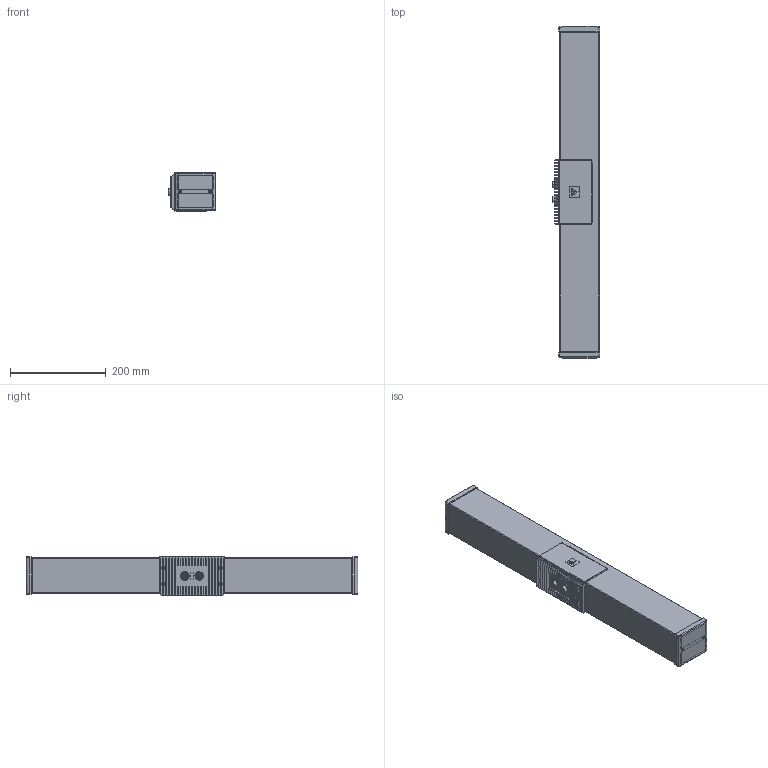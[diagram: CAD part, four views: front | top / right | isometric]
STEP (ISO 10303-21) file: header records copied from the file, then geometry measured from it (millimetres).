
FILE_DESCRIPTION (( 'STEP AP214' ), '1' );
FILE_NAME ('G52000.STEP', '2024-08-23T10:11:16', ( '' ), ( '' ), 'SwSTEP 2.0', 'SolidWorks 2023', '' );
FILE_SCHEMA (( 'AUTOMOTIVE_DESIGN' ));
Length unit declared in the file: millimetre
Products named in the file (21): M12-B3-Sx-M12X1pin; G52000; 防护镜片-40-45; logo; RVC-G-C-01-碳纤维管680-V3.0; RVC-G-C-17-激光镜片压板-V3.0; RVC-G-C-19-端盖内锁座-V3.0; 天传奇小尺寸振镜; 内六角沉头螺钉[M3×6]_M3×8×6; RVC-P-C-10-相机调节板-V3.0; 迈拓激光; M12-B1-S8X; RVC-G-C-05-振镜固定座-V3.0; RVC-G-C-07-相机端盖-V3.0; RVC-G-C-10-主散热板-V3.0; RVC-G-C-03-相机安装底板-V3.0; 内六角圆柱头螺钉[M3×8]_M3×5; RVC-G-C-08-内锁螺丝座-V3.0; 内六角沉头螺钉[M2.5×6]_M3×8×6; RVC-G-C-20-内锁螺丝座-短-V3.0; RVC-P-C-15-相机镜片压板-V3.0
Assembly tree (56 placements, depth 2):
  G52000
    RVC-G-C-01-碳纤维管680-V3.0
    RVC-G-C-07-相机端盖-V3.0  x2
    RVC-G-C-10-主散热板-V3.0
    M12-B1-S8X
    M12-B3-Sx-M12X1pin
    天传奇小尺寸振镜
    迈拓激光
    RVC-G-C-05-振镜固定座-V3.0
    RVC-G-C-03-相机安装底板-V3.0
    RVC-G-C-08-内锁螺丝座-V3.0
    RVC-G-C-20-内锁螺丝座-短-V3.0
    RVC-G-C-19-端盖内锁座-V3.0
    RVC-P-C-10-相机调节板-V3.0
    RVC-P-C-15-相机镜片压板-V3.0  x2
    RVC-G-C-17-激光镜片压板-V3.0
    防护镜片-40-45  x3
    内六角沉头螺钉[M2.5×6]_M3×8×6  x12
    内六角沉头螺钉[M3×6]_M3×8×6  x20
    logo
    内六角圆柱头螺钉[M3×8]_M3×5  x3
Bounding box: 100 x 692 x 81 mm (x, y, z)
Volume: 4372644.3 mm3; surface area: 410468.1 mm2
Topology: 56 solids, 56 shells, 3036 faces, 7329 edges, 4535 vertices
Faces by surface type: plane 1170, cylinder 879, cone 584, bspline 256, torus 147
Entity records: 78439 total; most frequent: CARTESIAN_POINT 29369, ORIENTED_EDGE 10182, DIRECTION 9733, EDGE_CURVE 5091, AXIS2_PLACEMENT_3D 3462, VERTEX_POINT 3293, VECTOR 2809, LINE 2809
